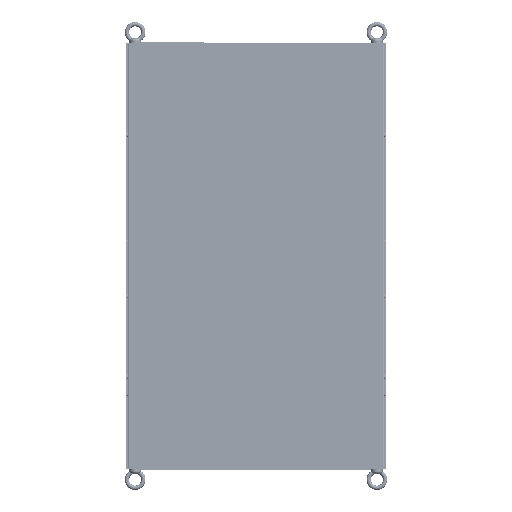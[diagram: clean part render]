
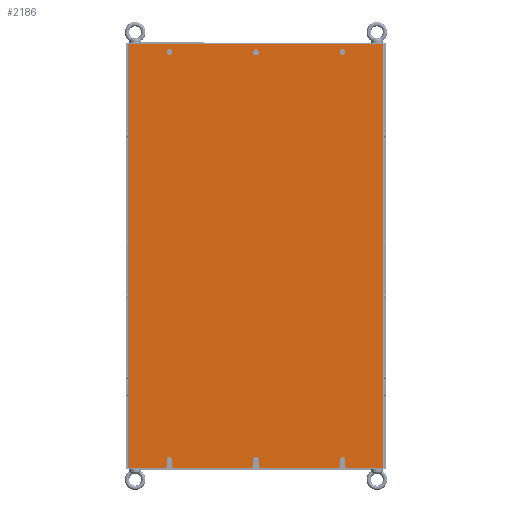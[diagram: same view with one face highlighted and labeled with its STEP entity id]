
A CAD part, front view. The second image highlights one B-rep face of the part: STEP entity #2186.
In plain terms, the highlighted planar face has unit normal (0, -1, 0).
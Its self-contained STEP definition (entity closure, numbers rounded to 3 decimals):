
#57=CARTESIAN_POINT('',(180.,0.,424.));
#58=DIRECTION('',(0.,1.,0.));
#59=DIRECTION('',(0.,0.,-1.));
#60=AXIS2_PLACEMENT_3D('',#57,#58,#59);
#62=CARTESIAN_POINT('',(180.,0.,424.));
#63=DIRECTION('',(0.,1.,0.));
#64=DIRECTION('',(0.,0.,1.));
#65=AXIS2_PLACEMENT_3D('',#62,#63,#64);
#67=CARTESIAN_POINT('',(0.,0.,424.));
#68=DIRECTION('',(0.,1.,0.));
#69=DIRECTION('',(0.,0.,-1.));
#70=AXIS2_PLACEMENT_3D('',#67,#68,#69);
#72=CARTESIAN_POINT('',(0.,0.,424.));
#73=DIRECTION('',(0.,1.,0.));
#74=DIRECTION('',(0.,0.,1.));
#75=AXIS2_PLACEMENT_3D('',#72,#73,#74);
#77=CARTESIAN_POINT('',(-180.,0.,424.));
#78=DIRECTION('',(0.,1.,0.));
#79=DIRECTION('',(0.,0.,-1.));
#80=AXIS2_PLACEMENT_3D('',#77,#78,#79);
#82=CARTESIAN_POINT('',(-180.,0.,424.));
#83=DIRECTION('',(0.,1.,0.));
#84=DIRECTION('',(0.,0.,1.));
#85=AXIS2_PLACEMENT_3D('',#82,#83,#84);
#87=CARTESIAN_POINT('',(-172.,0.,-438.));
#88=DIRECTION('',(0.,-1.,0.));
#89=DIRECTION('',(-1.,0.,0.));
#90=AXIS2_PLACEMENT_3D('',#87,#88,#89);
#92=DIRECTION('',(0.,0.,1.));
#93=VECTOR('',#92,14.);
#94=CARTESIAN_POINT('',(-174.,0.,-438.));
#95=LINE('',#94,#93);
#96=CARTESIAN_POINT('',(-180.,0.,-424.));
#97=DIRECTION('',(0.,1.,0.));
#98=DIRECTION('',(-1.,0.,0.));
#99=AXIS2_PLACEMENT_3D('',#96,#97,#98);
#101=DIRECTION('',(0.,0.,1.));
#102=VECTOR('',#101,14.);
#103=CARTESIAN_POINT('',(-186.,0.,-438.));
#104=LINE('',#103,#102);
#105=CARTESIAN_POINT('',(-188.,0.,-438.));
#106=DIRECTION('',(0.,-1.,0.));
#107=DIRECTION('',(0.,0.,-1.));
#108=AXIS2_PLACEMENT_3D('',#105,#106,#107);
#110=DIRECTION('',(-1.,0.,0.));
#111=VECTOR('',#110,76.2);
#112=CARTESIAN_POINT('',(-188.,0.,-440.));
#113=LINE('',#112,#111);
#114=DIRECTION('',(1.,0.,0.));
#115=VECTOR('',#114,528.4);
#116=CARTESIAN_POINT('',(-264.2,0.,440.));
#117=LINE('',#116,#115);
#118=DIRECTION('',(-1.,0.,0.));
#119=VECTOR('',#118,76.2);
#120=CARTESIAN_POINT('',(264.2,0.,-440.));
#121=LINE('',#120,#119);
#122=CARTESIAN_POINT('',(188.,0.,-438.));
#123=DIRECTION('',(0.,-1.,0.));
#124=DIRECTION('',(-1.,0.,0.));
#125=AXIS2_PLACEMENT_3D('',#122,#123,#124);
#127=DIRECTION('',(0.,0.,1.));
#128=VECTOR('',#127,14.);
#129=CARTESIAN_POINT('',(186.,0.,-438.));
#130=LINE('',#129,#128);
#131=CARTESIAN_POINT('',(180.,0.,-424.));
#132=DIRECTION('',(0.,1.,0.));
#133=DIRECTION('',(-1.,0.,0.));
#134=AXIS2_PLACEMENT_3D('',#131,#132,#133);
#136=DIRECTION('',(0.,0.,1.));
#137=VECTOR('',#136,14.);
#138=CARTESIAN_POINT('',(174.,0.,-438.));
#139=LINE('',#138,#137);
#140=CARTESIAN_POINT('',(172.,0.,-438.));
#141=DIRECTION('',(0.,-1.,0.));
#142=DIRECTION('',(0.,0.,-1.));
#143=AXIS2_PLACEMENT_3D('',#140,#141,#142);
#145=DIRECTION('',(-1.,0.,0.));
#146=VECTOR('',#145,164.);
#147=CARTESIAN_POINT('',(172.,0.,-440.));
#148=LINE('',#147,#146);
#149=CARTESIAN_POINT('',(8.,0.,-438.));
#150=DIRECTION('',(0.,-1.,0.));
#151=DIRECTION('',(-1.,0.,0.));
#152=AXIS2_PLACEMENT_3D('',#149,#150,#151);
#154=DIRECTION('',(0.,0.,1.));
#155=VECTOR('',#154,14.);
#156=CARTESIAN_POINT('',(6.,0.,-438.));
#157=LINE('',#156,#155);
#158=CARTESIAN_POINT('',(0.,0.,-424.));
#159=DIRECTION('',(0.,1.,0.));
#160=DIRECTION('',(-1.,0.,0.));
#161=AXIS2_PLACEMENT_3D('',#158,#159,#160);
#163=DIRECTION('',(0.,0.,1.));
#164=VECTOR('',#163,14.);
#165=CARTESIAN_POINT('',(-6.,0.,-438.));
#166=LINE('',#165,#164);
#167=CARTESIAN_POINT('',(-8.,0.,-438.));
#168=DIRECTION('',(0.,-1.,0.));
#169=DIRECTION('',(0.,0.,-1.));
#170=AXIS2_PLACEMENT_3D('',#167,#168,#169);
#172=DIRECTION('',(-1.,0.,0.));
#173=VECTOR('',#172,164.);
#174=CARTESIAN_POINT('',(-8.,0.,-440.));
#175=LINE('',#174,#173);
#388=DIRECTION('',(0.,0.,-1.));
#389=VECTOR('',#388,880.);
#390=CARTESIAN_POINT('',(264.2,0.,440.));
#391=LINE('',#390,#389);
#1042=DIRECTION('',(0.,0.,1.));
#1043=VECTOR('',#1042,880.);
#1044=CARTESIAN_POINT('',(-264.2,0.,-440.));
#1045=LINE('',#1044,#1043);
#1677=CARTESIAN_POINT('',(264.2,0.,-440.));
#1678=VERTEX_POINT('',#1677);
#1679=CARTESIAN_POINT('',(264.2,0.,440.));
#1680=VERTEX_POINT('',#1679);
#1701=CARTESIAN_POINT('',(-264.2,0.,440.));
#1702=VERTEX_POINT('',#1701);
#1703=CARTESIAN_POINT('',(-264.2,0.,-440.));
#1704=VERTEX_POINT('',#1703);
#1977=CARTESIAN_POINT('',(180.,0.,418.));
#1978=CARTESIAN_POINT('',(180.,0.,430.));
#1979=VERTEX_POINT('',#1977);
#1980=VERTEX_POINT('',#1978);
#1981=CARTESIAN_POINT('',(0.,0.,418.));
#1982=CARTESIAN_POINT('',(0.,0.,430.));
#1983=VERTEX_POINT('',#1981);
#1984=VERTEX_POINT('',#1982);
#1985=CARTESIAN_POINT('',(-180.,0.,418.));
#1986=CARTESIAN_POINT('',(-180.,0.,430.));
#1987=VERTEX_POINT('',#1985);
#1988=VERTEX_POINT('',#1986);
#1989=CARTESIAN_POINT('',(-6.,0.,-424.));
#1990=CARTESIAN_POINT('',(6.,0.,-424.));
#1991=VERTEX_POINT('',#1989);
#1992=VERTEX_POINT('',#1990);
#1993=CARTESIAN_POINT('',(-186.,0.,-424.));
#1994=CARTESIAN_POINT('',(-174.,0.,-424.));
#1995=VERTEX_POINT('',#1993);
#1996=VERTEX_POINT('',#1994);
#1997=CARTESIAN_POINT('',(174.,0.,-424.));
#1998=CARTESIAN_POINT('',(186.,0.,-424.));
#1999=VERTEX_POINT('',#1997);
#2000=VERTEX_POINT('',#1998);
#2069=CARTESIAN_POINT('',(-174.,0.,-438.));
#2070=CARTESIAN_POINT('',(-172.,0.,-440.));
#2071=VERTEX_POINT('',#2069);
#2072=VERTEX_POINT('',#2070);
#2077=CARTESIAN_POINT('',(-188.,0.,-440.));
#2078=CARTESIAN_POINT('',(-186.,0.,-438.));
#2079=VERTEX_POINT('',#2077);
#2080=VERTEX_POINT('',#2078);
#2085=CARTESIAN_POINT('',(6.,0.,-438.));
#2086=CARTESIAN_POINT('',(8.,0.,-440.));
#2087=VERTEX_POINT('',#2085);
#2088=VERTEX_POINT('',#2086);
#2093=CARTESIAN_POINT('',(-8.,0.,-440.));
#2094=CARTESIAN_POINT('',(-6.,0.,-438.));
#2095=VERTEX_POINT('',#2093);
#2096=VERTEX_POINT('',#2094);
#2101=CARTESIAN_POINT('',(186.,0.,-438.));
#2102=CARTESIAN_POINT('',(188.,0.,-440.));
#2103=VERTEX_POINT('',#2101);
#2104=VERTEX_POINT('',#2102);
#2109=CARTESIAN_POINT('',(172.,0.,-440.));
#2110=CARTESIAN_POINT('',(174.,0.,-438.));
#2111=VERTEX_POINT('',#2109);
#2112=VERTEX_POINT('',#2110);
#2117=CARTESIAN_POINT('',(0.,0.,0.));
#2118=DIRECTION('',(0.,1.,0.));
#2119=DIRECTION('',(0.,0.,1.));
#2120=AXIS2_PLACEMENT_3D('',#2117,#2118,#2119);
#2121=PLANE('',#2120);
#2123=ORIENTED_EDGE('',*,*,#2122,.F.);
#2125=ORIENTED_EDGE('',*,*,#2124,.T.);
#2127=ORIENTED_EDGE('',*,*,#2126,.F.);
#2129=ORIENTED_EDGE('',*,*,#2128,.F.);
#2131=ORIENTED_EDGE('',*,*,#2130,.F.);
#2133=ORIENTED_EDGE('',*,*,#2132,.T.);
#2135=ORIENTED_EDGE('',*,*,#2134,.T.);
#2137=ORIENTED_EDGE('',*,*,#2136,.T.);
#2139=ORIENTED_EDGE('',*,*,#2138,.T.);
#2141=ORIENTED_EDGE('',*,*,#2140,.T.);
#2143=ORIENTED_EDGE('',*,*,#2142,.F.);
#2145=ORIENTED_EDGE('',*,*,#2144,.T.);
#2147=ORIENTED_EDGE('',*,*,#2146,.F.);
#2149=ORIENTED_EDGE('',*,*,#2148,.F.);
#2151=ORIENTED_EDGE('',*,*,#2150,.F.);
#2153=ORIENTED_EDGE('',*,*,#2152,.T.);
#2155=ORIENTED_EDGE('',*,*,#2154,.F.);
#2157=ORIENTED_EDGE('',*,*,#2156,.T.);
#2159=ORIENTED_EDGE('',*,*,#2158,.F.);
#2161=ORIENTED_EDGE('',*,*,#2160,.F.);
#2163=ORIENTED_EDGE('',*,*,#2162,.F.);
#2165=ORIENTED_EDGE('',*,*,#2164,.T.);
#2166=EDGE_LOOP('',(#2123,#2125,#2127,#2129,#2131,#2133,#2135,#2137,#2139,#2141,
#2143,#2145,#2147,#2149,#2151,#2153,#2155,#2157,#2159,#2161,#2163,#2165));
#2167=FACE_OUTER_BOUND('',#2166,.F.);
#2169=ORIENTED_EDGE('',*,*,#2168,.F.);
#2171=ORIENTED_EDGE('',*,*,#2170,.F.);
#2172=EDGE_LOOP('',(#2169,#2171));
#2173=FACE_BOUND('',#2172,.F.);
#2175=ORIENTED_EDGE('',*,*,#2174,.F.);
#2177=ORIENTED_EDGE('',*,*,#2176,.F.);
#2178=EDGE_LOOP('',(#2175,#2177));
#2179=FACE_BOUND('',#2178,.F.);
#2181=ORIENTED_EDGE('',*,*,#2180,.F.);
#2183=ORIENTED_EDGE('',*,*,#2182,.F.);
#2184=EDGE_LOOP('',(#2181,#2183));
#2185=FACE_BOUND('',#2184,.F.);
#2186=ADVANCED_FACE('',(#2167,#2173,#2179,#2185),#2121,.F.);
#61=CIRCLE('',#60,6.);
#66=CIRCLE('',#65,6.);
#71=CIRCLE('',#70,6.);
#76=CIRCLE('',#75,6.);
#81=CIRCLE('',#80,6.);
#86=CIRCLE('',#85,6.);
#91=CIRCLE('',#90,2.);
#100=CIRCLE('',#99,6.);
#109=CIRCLE('',#108,2.);
#126=CIRCLE('',#125,2.);
#135=CIRCLE('',#134,6.);
#144=CIRCLE('',#143,2.);
#153=CIRCLE('',#152,2.);
#162=CIRCLE('',#161,6.);
#171=CIRCLE('',#170,2.);
#2122=EDGE_CURVE('',#2071,#2072,#91,.T.);
#2124=EDGE_CURVE('',#2071,#1996,#95,.T.);
#2126=EDGE_CURVE('',#1995,#1996,#100,.T.);
#2128=EDGE_CURVE('',#2080,#1995,#104,.T.);
#2130=EDGE_CURVE('',#2079,#2080,#109,.T.);
#2132=EDGE_CURVE('',#2079,#1704,#113,.T.);
#2134=EDGE_CURVE('',#1704,#1702,#1045,.T.);
#2136=EDGE_CURVE('',#1702,#1680,#117,.T.);
#2138=EDGE_CURVE('',#1680,#1678,#391,.T.);
#2140=EDGE_CURVE('',#1678,#2104,#121,.T.);
#2142=EDGE_CURVE('',#2103,#2104,#126,.T.);
#2144=EDGE_CURVE('',#2103,#2000,#130,.T.);
#2146=EDGE_CURVE('',#1999,#2000,#135,.T.);
#2148=EDGE_CURVE('',#2112,#1999,#139,.T.);
#2150=EDGE_CURVE('',#2111,#2112,#144,.T.);
#2152=EDGE_CURVE('',#2111,#2088,#148,.T.);
#2154=EDGE_CURVE('',#2087,#2088,#153,.T.);
#2156=EDGE_CURVE('',#2087,#1992,#157,.T.);
#2158=EDGE_CURVE('',#1991,#1992,#162,.T.);
#2160=EDGE_CURVE('',#2096,#1991,#166,.T.);
#2162=EDGE_CURVE('',#2095,#2096,#171,.T.);
#2164=EDGE_CURVE('',#2095,#2072,#175,.T.);
#2168=EDGE_CURVE('',#1983,#1984,#71,.T.);
#2170=EDGE_CURVE('',#1984,#1983,#76,.T.);
#2174=EDGE_CURVE('',#1987,#1988,#81,.T.);
#2176=EDGE_CURVE('',#1988,#1987,#86,.T.);
#2180=EDGE_CURVE('',#1979,#1980,#61,.T.);
#2182=EDGE_CURVE('',#1980,#1979,#66,.T.);
